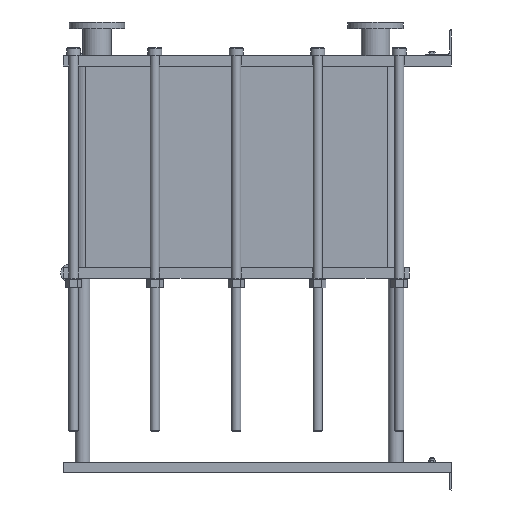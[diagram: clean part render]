
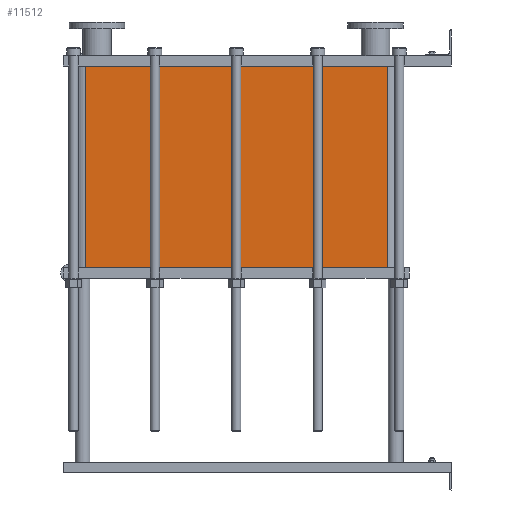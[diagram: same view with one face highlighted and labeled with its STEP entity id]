
A CAD part, left-side view. The second image highlights one B-rep face of the part: STEP entity #11512.
In plain terms, the highlighted planar face has unit normal (-1, 0, 0).
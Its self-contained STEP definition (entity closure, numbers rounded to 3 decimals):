
#1129=LINE('',#23232,#2102);
#1130=LINE('',#23236,#2103);
#1131=LINE('',#23238,#2104);
#1132=LINE('',#23239,#2105);
#2102=VECTOR('',#15887,10.);
#2103=VECTOR('',#15892,10.);
#2104=VECTOR('',#15893,10.);
#2105=VECTOR('',#15894,10.);
#3267=FACE_OUTER_BOUND('',#4093,.T.);
#4093=EDGE_LOOP('',(#10103,#10104,#10105,#10106));
#5642=VERTEX_POINT('',#23229);
#5643=VERTEX_POINT('',#23231);
#5644=VERTEX_POINT('',#23235);
#5645=VERTEX_POINT('',#23237);
#7159=EDGE_CURVE('',#5643,#5642,#1129,.T.);
#7161=EDGE_CURVE('',#5642,#5644,#1130,.T.);
#7162=EDGE_CURVE('',#5645,#5644,#1131,.T.);
#7163=EDGE_CURVE('',#5645,#5643,#1132,.T.);
#10103=ORIENTED_EDGE('',*,*,#7161,.T.);
#10104=ORIENTED_EDGE('',*,*,#7162,.F.);
#10105=ORIENTED_EDGE('',*,*,#7163,.T.);
#10106=ORIENTED_EDGE('',*,*,#7159,.T.);
#10857=PLANE('',#12751);
#11512=ADVANCED_FACE('',(#3267),#10857,.T.);
#12751=AXIS2_PLACEMENT_3D('',#23234,#15890,#15891);
#15887=DIRECTION('',(0.,0.,-1.));
#15890=DIRECTION('center_axis',(-1.,0.,0.));
#15891=DIRECTION('ref_axis',(0.,1.,0.));
#15892=DIRECTION('',(0.,-1.,0.));
#15893=DIRECTION('',(0.,0.,-1.));
#15894=DIRECTION('',(0.,1.,0.));
#23229=CARTESIAN_POINT('',(-200.,1414.,-779.7));
#23231=CARTESIAN_POINT('',(-200.,1414.,0.));
#23232=CARTESIAN_POINT('',(-200.,1414.,0.));
#23234=CARTESIAN_POINT('Origin',(-200.,248.,0.));
#23235=CARTESIAN_POINT('',(-200.,248.,-779.7));
#23236=CARTESIAN_POINT('',(-200.,539.5,-779.7));
#23237=CARTESIAN_POINT('',(-200.,248.,0.));
#23238=CARTESIAN_POINT('',(-200.,248.,0.));
#23239=CARTESIAN_POINT('',(-200.,248.,0.));
